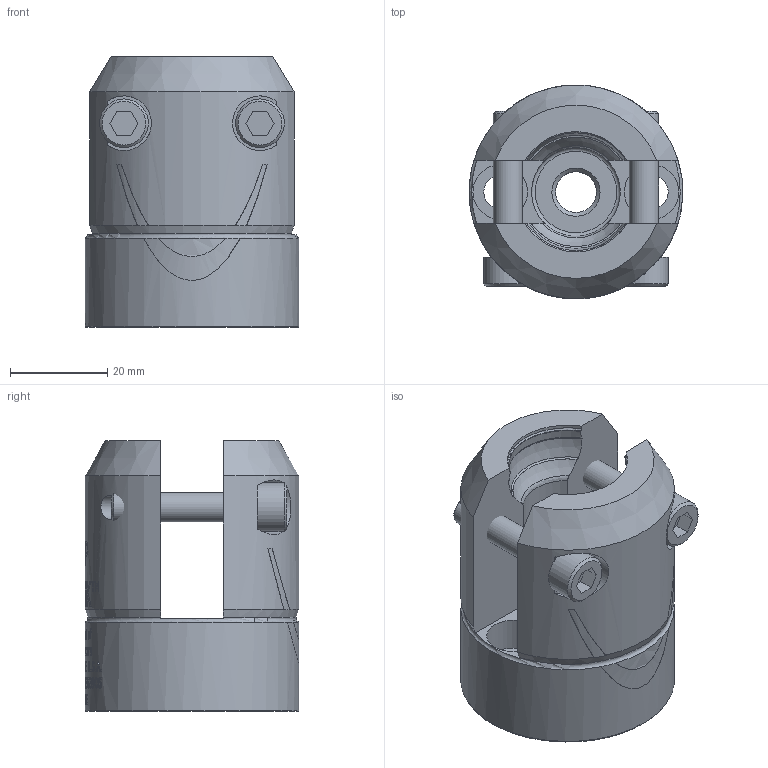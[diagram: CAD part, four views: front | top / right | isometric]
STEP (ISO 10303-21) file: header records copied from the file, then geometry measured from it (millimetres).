
FILE_DESCRIPTION(/* description */ ('POP-LINK BASE'),/* implementation_level */ '2;1');
FILE_NAME(/* name */ 'C:\Users\owner\Desktop\PL SERIES\PL-BASE.stp',/* time_stamp */ '2017-09-27T15:24:58-04:00',/* author */ ('owner'),/* organization */ (''),/* preprocessor_version */ 'ST-DEVELOPER v16.5',/* originating_system */ 'Autodesk Inventor 2017',/* authorisation */ '');
FILE_SCHEMA (('CONFIG_CONTROL_DESIGN'));
Length unit declared in the file: inch
Products named in the file (3): PL-BASE; 60000; 60024
Assembly tree (3 placements, depth 2):
  PL-BASE
    60000
    60024  x2
Bounding box: 43.9 x 43.92 x 55.58 mm (x, y, z)
Volume: 54469.1 mm3; surface area: 16501.4 mm2
Topology: 3 solids, 3 shells, 1094 faces, 2955 edges, 1969 vertices
Faces by surface type: bspline 482, plane 464, cylinder 121, torus 12, cone 9, sphere 6
Full cylindrical faces by diameter (mm): 4.928 x2, 5.994 x2, 6.782 x4, 8.382 x1, 10 x2, 11.227 x2, 18.237 x1, 43.917 x1
Entity records: 45875 total; most frequent: CARTESIAN_POINT 21108, ORIENTED_EDGE 5802, DIRECTION 3857, EDGE_CURVE 2901, VERTEX_POINT 1944, LINE 1361, VECTOR 1361, AXIS2_PLACEMENT_3D 1248
